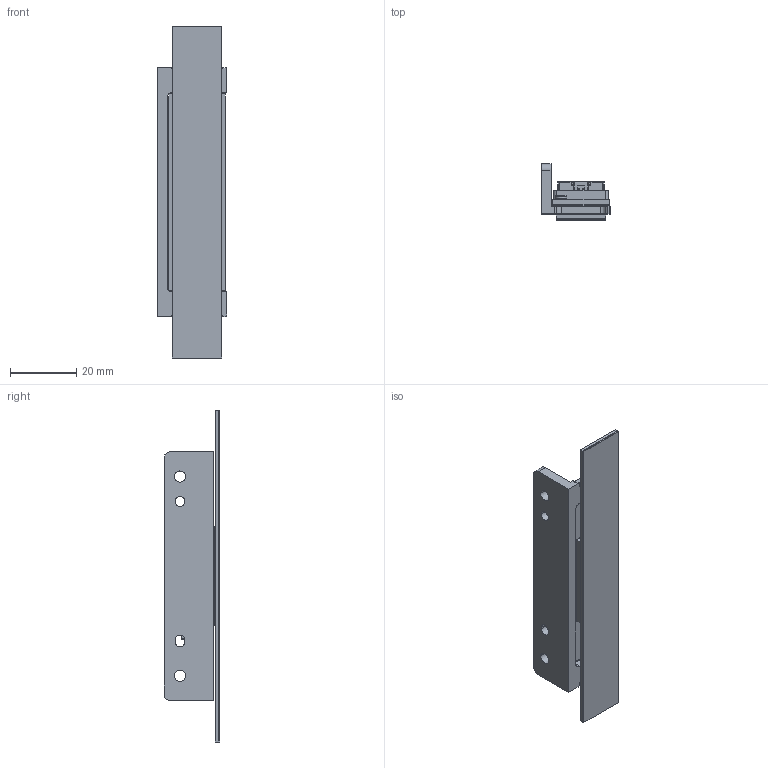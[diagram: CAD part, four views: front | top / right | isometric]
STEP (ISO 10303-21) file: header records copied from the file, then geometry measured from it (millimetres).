
FILE_DESCRIPTION (( 'STEP AP203' ), '1' );
FILE_NAME ('Kotnik+trak.STEP', '2025-07-14T07:54:43', ( '' ), ( '' ), 'SwSTEP 2.0', 'SolidWorks 2024', '' );
FILE_SCHEMA (( 'CONFIG_CONTROL_DESIGN' ));
Products named in the file (1): Kotnik+trak
Bounding box: 21 x 16.84 x 100 mm (x, y, z)
Surface area: 12521 mm2 (no closed solid volume)
Topology: 0 solids, 90 shells, 2126 faces, 5519 edges, 3627 vertices
Faces by surface type: plane 1727, bspline 189, cylinder 152, torus 42, cone 12, sphere 4
Entity records: 73864 total; most frequent: CARTESIAN_POINT 23692, ORIENTED_EDGE 10892, DIRECTION 9003, EDGE_CURVE 5514, LINE 4289, VECTOR 4289, VERTEX_POINT 3627, AXIS2_PLACEMENT_3D 2357
